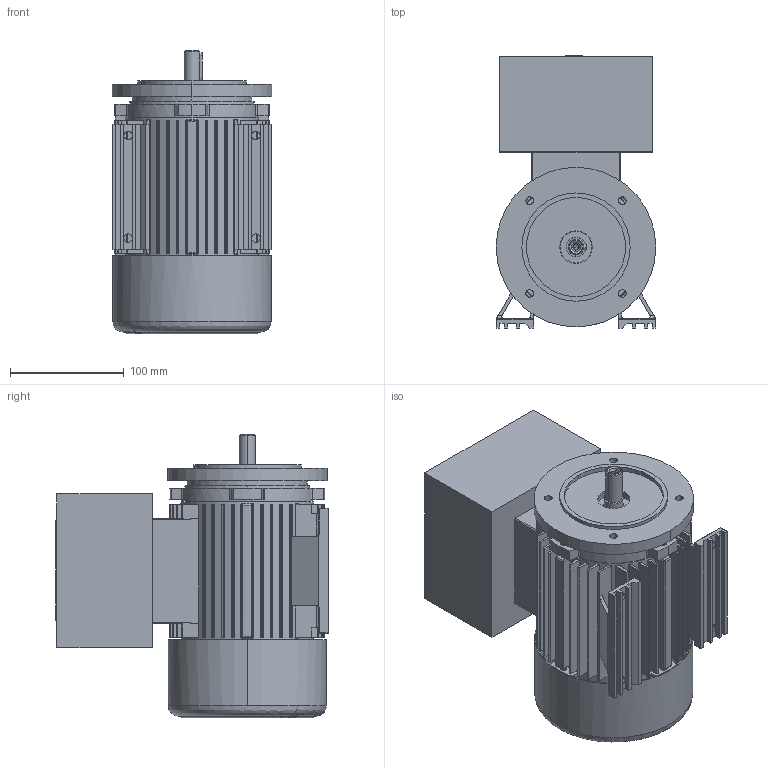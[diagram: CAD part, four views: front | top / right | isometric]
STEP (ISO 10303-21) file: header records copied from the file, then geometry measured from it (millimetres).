
FILE_DESCRIPTION (( 'STEP AP214' ), '1' );
FILE_NAME ('20.17496-G 5AT 71 B34_F115 Exde STANDK.STEP', '2018-11-15T09:15:08', ( '' ), ( '' ), 'SwSTEP 2.0', 'SolidWorks 2018', '' );
FILE_SCHEMA (( 'AUTOMOTIVE_DESIGN' ));
Length unit declared in the file: millimetre
Products named in the file (1): 20.17496-G 5AT 71 B34_F115 Exde STANDK
Bounding box: 140 x 239 x 249 mm (x, y, z)
Volume: 2855337.3 mm3; surface area: 459619.8 mm2
Topology: 4 solids, 4 shells, 907 faces, 2313 edges, 1463 vertices
Faces by surface type: plane 420, cylinder 351, bspline 94, cone 42
Entity records: 30226 total; most frequent: CARTESIAN_POINT 8220, DIRECTION 4591, ORIENTED_EDGE 4566, EDGE_CURVE 2283, AXIS2_PLACEMENT_3D 1658, VERTEX_POINT 1463, VECTOR 1275, LINE 1275
